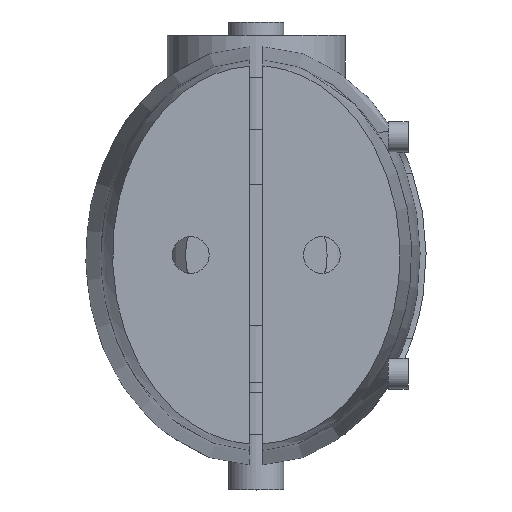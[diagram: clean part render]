
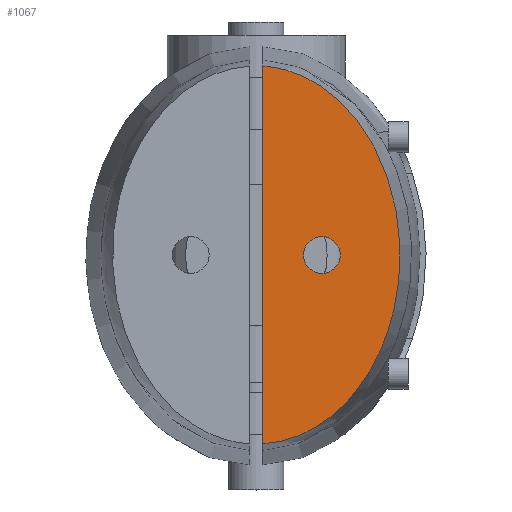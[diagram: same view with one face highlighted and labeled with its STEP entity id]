
A CAD part, top view. The second image highlights one B-rep face of the part: STEP entity #1067.
In plain terms, the highlighted planar face has unit normal (0, 0, 1).
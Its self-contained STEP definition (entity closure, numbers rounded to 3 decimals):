
#477 = VERTEX_POINT('',#478);
#478 = CARTESIAN_POINT('',(0.25,-7.201,22.2));
#582 = VERTEX_POINT('',#583);
#583 = CARTESIAN_POINT('',(0.25,7.201,22.2));
#666 = EDGE_CURVE('',#477,#582,#667,.T.);
#667 = B_SPLINE_CURVE_WITH_KNOTS('',14,(#668,#669,#670,#671,#672,#673,
    #674,#675,#676,#677,#678,#679,#680,#681,#682),.UNSPECIFIED.,.T.,.F.,
  (15,15),(0.,1.),.PIECEWISE_BEZIER_KNOTS.);
#668 = CARTESIAN_POINT('',(0.,7.208,22.2));
#669 = CARTESIAN_POINT('',(-2.46,7.208,22.2));
#670 = CARTESIAN_POINT('',(-4.92,5.645,22.2));
#671 = CARTESIAN_POINT('',(-6.757,2.517,22.2));
#672 = CARTESIAN_POINT('',(-7.349,-1.706,22.2));
#673 = CARTESIAN_POINT('',(-6.298,-6.089,22.2));
#674 = CARTESIAN_POINT('',(-3.65,-9.436,22.2));
#675 = CARTESIAN_POINT('',(0.,-10.696,22.2));
#676 = CARTESIAN_POINT('',(3.65,-9.436,22.2));
#677 = CARTESIAN_POINT('',(6.298,-6.089,22.2));
#678 = CARTESIAN_POINT('',(7.349,-1.706,22.2));
#679 = CARTESIAN_POINT('',(6.757,2.517,22.2));
#680 = CARTESIAN_POINT('',(4.92,5.645,22.2));
#681 = CARTESIAN_POINT('',(2.46,7.208,22.2));
#682 = CARTESIAN_POINT('',(0.,7.208,22.2));
#1057 = EDGE_CURVE('',#582,#477,#1058,.T.);
#1058 = LINE('',#1059,#1060);
#1059 = CARTESIAN_POINT('',(0.25,-13.896,22.2));
#1060 = VECTOR('',#1061,1.);
#1061 = DIRECTION('',(0.,-1.,0.));
#1067 = ADVANCED_FACE('',(#1068,#1072),#1083,.F.);
#1068 = FACE_BOUND('',#1069,.F.);
#1069 = EDGE_LOOP('',(#1070,#1071));
#1070 = ORIENTED_EDGE('',*,*,#666,.F.);
#1071 = ORIENTED_EDGE('',*,*,#1057,.F.);
#1072 = FACE_BOUND('',#1073,.F.);
#1073 = EDGE_LOOP('',(#1074));
#1074 = ORIENTED_EDGE('',*,*,#1075,.T.);
#1075 = EDGE_CURVE('',#1076,#1076,#1078,.T.);
#1076 = VERTEX_POINT('',#1077);
#1077 = CARTESIAN_POINT('',(3.2,0.,22.2));
#1078 = CIRCLE('',#1079,0.7);
#1079 = AXIS2_PLACEMENT_3D('',#1080,#1081,#1082);
#1080 = CARTESIAN_POINT('',(2.5,0.,22.2));
#1081 = DIRECTION('',(0.,0.,1.));
#1082 = DIRECTION('',(1.,0.,-0.));
#1083 = PLANE('',#1084);
#1084 = AXIS2_PLACEMENT_3D('',#1085,#1086,#1087);
#1085 = CARTESIAN_POINT('',(0.,7.208,22.2));
#1086 = DIRECTION('',(0.,0.,-1.));
#1087 = DIRECTION('',(0.,-1.,-0.));
